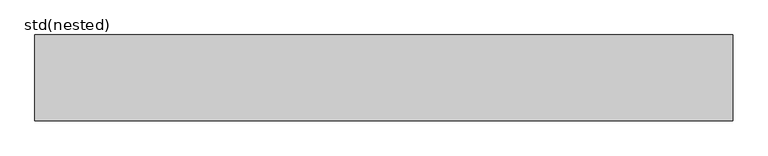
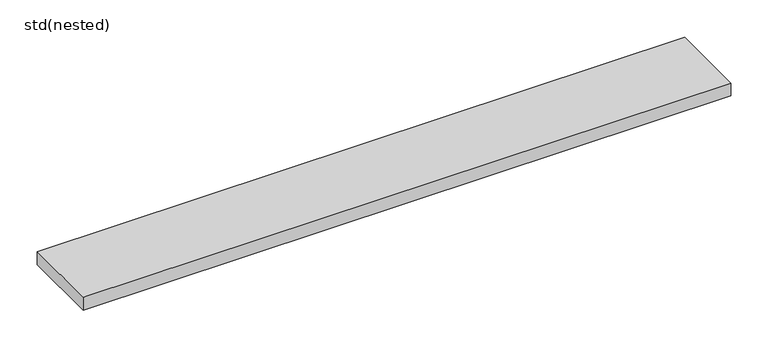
"""IFC4 building model written with IfcOpenShell, lengths in millimetres: sanitary terminal geometry, ZZZ_do not use_PF_SS_WPB_ Mesh grating 1000x125_ACO : std(nested)."""

from ifc_helpers import new_model, si_unit, origin, origin_with_axes, place, context, project, spatial, polyline, outline, extrude, source, transform, mapped, element, save


def std_nested_9b2d9389(model_context):
    return source(origin(), model_context, "Body", "SweptSolid", [
        extrude(outline(polyline([(500.0, 61.5), (500.0, -61.5), (-500.0, -61.5), (-500.0, 61.5), (500.0, 61.5)])), origin_with_axes(), (0.0, 0.0, 1.0), 21.0),
    ])


if __name__ == "__main__":
    model = new_model("IFC4")
    model_context = context("Model", 3, world=origin())
    ifc_project = project(units=[si_unit("LENGTHUNIT", "METRE", prefix="MILLI")], contexts=[model_context])
    site = spatial("IfcSite", under=ifc_project)
    building = spatial("IfcBuilding", under=site)
    placement = place(None, origin())
    std_nested_shape = std_nested_9b2d9389(model_context)
    element("IfcSanitaryTerminal", 1, ObjectType="ZZZ_do not use_PF_SS_WPB_ Mesh grating 1000x125_ACO : std(nested)", at=placement, inside=building, context=model_context, shape_type="MappedRepresentation", body=[
        mapped(std_nested_shape, transform((0.0, 0.0, 0.0), x_axis=(1.0, 0.0, 0.0), y_axis=(0.0, 1.0, 0.0), z_axis=(0.0, 0.0, 1.0))),
    ])
    save(model, "model.ifc")
